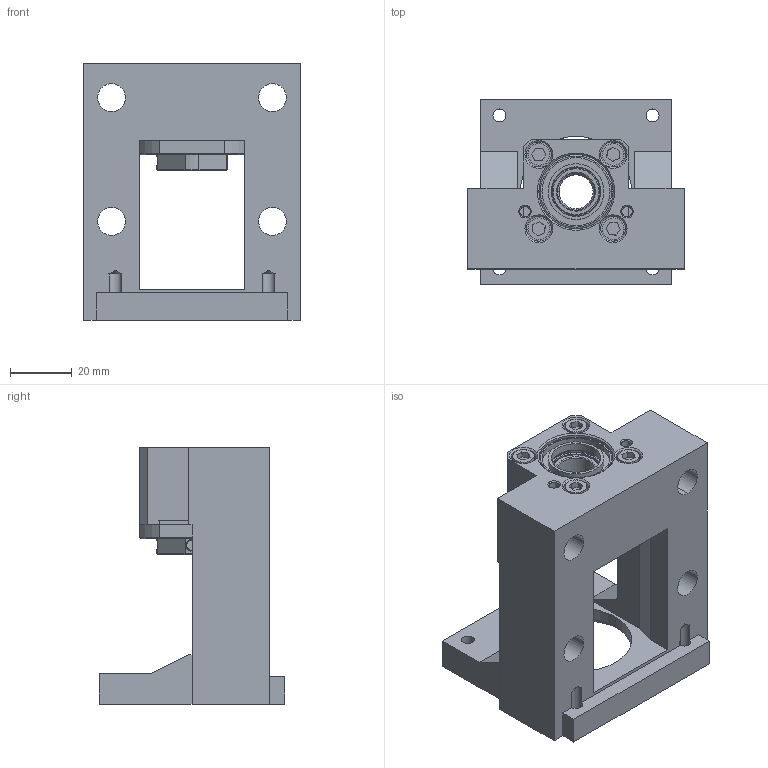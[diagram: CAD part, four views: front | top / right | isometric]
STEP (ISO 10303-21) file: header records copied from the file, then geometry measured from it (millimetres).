
FILE_DESCRIPTION (( 'STEP AP203' ), '1' );
FILE_NAME ('MBCE12-D.STEP', '2017-12-28T07:23:42', ( '' ), ( '' ), 'SwSTEP 2.0', 'SolidWorks 2017', '' );
FILE_SCHEMA (( 'CONFIG_CONTROL_DESIGN' ));
Length unit declared in the file: millimetre
Products named in the file (1): MBCE12-D
Bounding box: 70 x 60 x 83 mm (x, y, z)
Surface area: 36514.7 mm2 (no closed solid volume)
Topology: 0 solids, 25 shells, 287 faces, 782 edges, 505 vertices
Faces by surface type: cylinder 97, plane 97, cone 57, torus 16, sphere 16, bspline 4
Entity records: 9905 total; most frequent: CARTESIAN_POINT 2703, DIRECTION 1565, ORIENTED_EDGE 1349, EDGE_CURVE 738, AXIS2_PLACEMENT_3D 605, VERTEX_POINT 481, VECTOR 355, LINE 355
